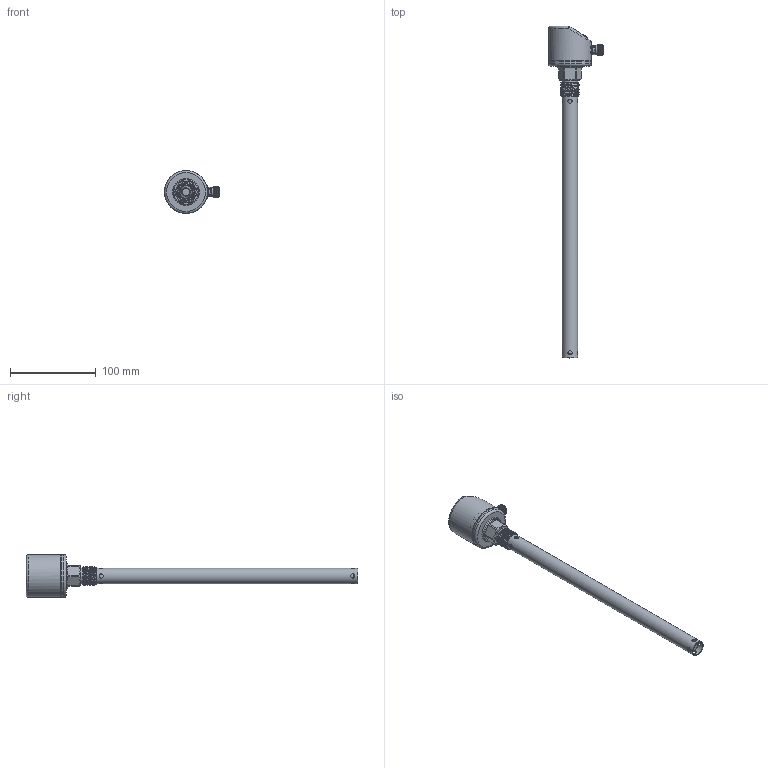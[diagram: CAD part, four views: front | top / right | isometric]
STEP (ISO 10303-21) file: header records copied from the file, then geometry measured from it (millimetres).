
FILE_DESCRIPTION (( 'STEP AP214' ), '1' );
FILE_NAME ('1-2数显电容-300（同轴）.STEP', '2025-03-11T05:47:09', ( '' ), ( '' ), 'SwSTEP 2.0', 'SolidWorks 2020', '' );
FILE_SCHEMA (( 'AUTOMOTIVE_DESIGN' ));
Length unit declared in the file: millimetre
Products named in the file (9): 抻芛ㄗ蟀哿講ㄘ; PVC躇猾菜; 滅阨諉芛褲极1; 揤薯珆尨欶; 揤薯奻裔; 1-2数显电容-300（同轴）; 偌瑩簽; 肮粣奪; 恦謫抻芛5
Assembly tree (10 placements, depth 2):
  1-2数显电容-300（同轴）
    揤薯奻裔
    揤薯珆尨欶
    滅阨諉芛褲极1
    偌瑩簽  x3
    PVC躇猾菜
    恦謫抻芛5
    抻芛ㄗ蟀哿講ㄘ
    肮粣奪
Bounding box: 64 x 386.5 x 50 mm (x, y, z)
Volume: 66081.4 mm3; surface area: 73994.5 mm2
Topology: 10 solids, 10 shells, 306 faces, 720 edges, 466 vertices
Faces by surface type: plane 126, cylinder 115, cone 39, bspline 11, torus 11, sphere 4
Full cylindrical faces by diameter (mm): 1 x4, 1.2 x3, 1.8 x1, 2 x3, 2.5 x4, 2.8 x1, 4.3 x3, 4.5 x6, 5 x8, 6 x1, 7.2 x1, 8 x1, 8.5 x1, 9.75 x1, 10 x1, 10.49 x1, 10.5 x1, 10.8 x1, 10.9 x1, 11 x2, 12 x1, 16 x1, 18 x1, 18.5 x1, 21 x1, 29.24 x1, 35 x1, 43.9 x1, 45.4 x1, 45.6 x2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
Entity records: 13745 total; most frequent: CARTESIAN_POINT 7166, DIRECTION 1284, ORIENTED_EDGE 1072, EDGE_CURVE 536, AXIS2_PLACEMENT_3D 523, EDGE_LOOP 458, VERTEX_POINT 398, FACE_OUTER_BOUND 344
